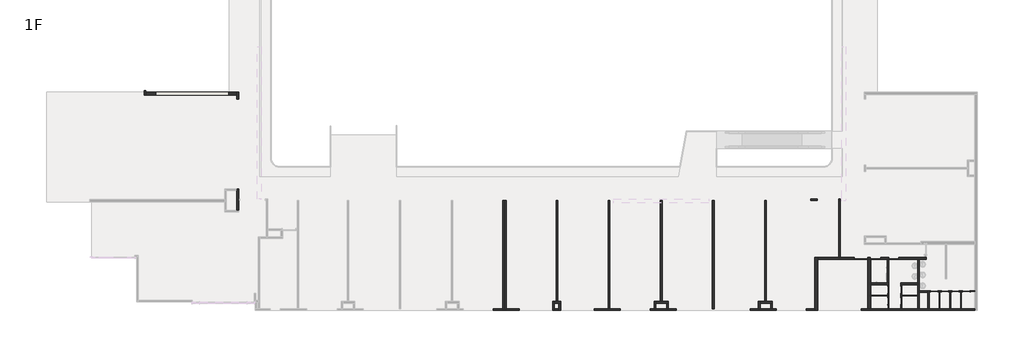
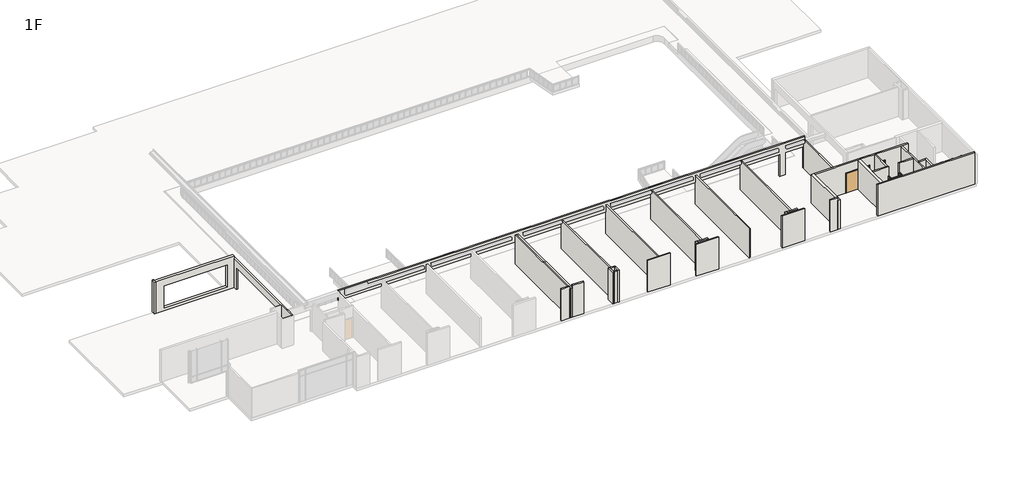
# One storey, part 2 of 5: 46 walls, 11 doors.
"""IFC4 building model written with IfcOpenShell, lengths in millimetres."""

from ifc_helpers import new_model, si_unit, frame, origin, place, context, project, spatial, polyline, outline, extrude, faceted_brep, transform, mapped, element, save
from components import m_single_flush_d_1200x2150_085a39eb, m_single_flush_d_600x2100_toilet_partition_8216d307, m_single_flush_d_900x2150_308bf3ab

model = new_model("IFC4")

# Units and contexts
model_context = context("Model", 3, world=origin())
ifc_project = project(units=[si_unit("LENGTHUNIT", "METRE", prefix="MILLI")], contexts=[model_context])

# Site, building, storey
site = spatial("IfcSite", under=ifc_project)
building = spatial("IfcBuilding", under=site)
storey = spatial("IfcBuildingStorey", under=building, Name="1F", Elevation=4650.0)

# Doors
placement = place(None, origin())
m_single_flush_d_1200x2150_shape = m_single_flush_d_1200x2150_085a39eb(model_context)
element("IfcDoor", 1, ObjectType="M_Single-Flush : D-1200x2150", at=placement, inside=storey, context=model_context, shape_type="MappedRepresentation", body=[
    mapped(m_single_flush_d_1200x2150_shape, transform((32662.4134101, -21228.6148653, 4650.0), x_axis=(1.0, 0.0, 0.0), y_axis=(0.0, 1.0, 0.0), z_axis=(0.0, 0.0, 1.0))),
])
m_single_flush_d_600x2100_toilet_partition_shape = m_single_flush_d_600x2100_toilet_partition_8216d307(model_context)
element("IfcDoor", 2, ObjectType="M_Single-Flush : D-600x2100-toilet-partition", at=placement, inside=storey, context=model_context, shape_type="MappedRepresentation", body=[
    mapped(m_single_flush_d_600x2100_toilet_partition_shape, transform((39137.4134101, -24152.6148653, 4650.0), x_axis=(-1.0, 0.0, 0.0), y_axis=(0.0, -1.0, 0.0), z_axis=(0.0, 0.0, 1.0))),
])
element("IfcDoor", 3, ObjectType="M_Single-Flush : D-600x2100-toilet-partition", at=placement, inside=storey, context=model_context, shape_type="MappedRepresentation", body=[
    mapped(m_single_flush_d_600x2100_toilet_partition_shape, transform((40087.4134101, -24152.6148653, 4650.0), x_axis=(-1.0, 0.0, 0.0), y_axis=(0.0, -1.0, 0.0), z_axis=(0.0, 0.0, 1.0))),
])
element("IfcDoor", 4, ObjectType="M_Single-Flush : D-600x2100-toilet-partition", at=placement, inside=storey, context=model_context, shape_type="MappedRepresentation", body=[
    mapped(m_single_flush_d_600x2100_toilet_partition_shape, transform((41037.4134101, -24152.6148653, 4650.0), x_axis=(-1.0, 0.0, 0.0), y_axis=(0.0, -1.0, 0.0), z_axis=(0.0, 0.0, 1.0))),
])
element("IfcDoor", 5, ObjectType="M_Single-Flush : D-600x2100-toilet-partition", at=placement, inside=storey, context=model_context, shape_type="MappedRepresentation", body=[
    mapped(m_single_flush_d_600x2100_toilet_partition_shape, transform((41987.4134101, -24152.6148653, 4650.0), x_axis=(-1.0, 0.0, 0.0), y_axis=(0.0, -1.0, 0.0), z_axis=(0.0, 0.0, 1.0))),
])
element("IfcDoor", 6, ObjectType="M_Single-Flush : D-600x2100-toilet-partition", at=placement, inside=storey, context=model_context, shape_type="MappedRepresentation", body=[
    mapped(m_single_flush_d_600x2100_toilet_partition_shape, transform((36217.4134101, -24027.6148653, 4650.0), x_axis=(0.0, -1.0, 0.0), y_axis=(1.0, 0.0, 0.0), z_axis=(0.0, 0.0, 1.0))),
])
element("IfcDoor", 7, ObjectType="M_Single-Flush : D-600x2100-toilet-partition", at=placement, inside=storey, context=model_context, shape_type="MappedRepresentation", body=[
    mapped(m_single_flush_d_600x2100_toilet_partition_shape, transform((36217.4134101, -25027.6148653, 4650.0), x_axis=(0.0, -1.0, 0.0), y_axis=(1.0, 0.0, 0.0), z_axis=(0.0, 0.0, 1.0))),
])
element("IfcDoor", 8, ObjectType="M_Single-Flush : D-600x2100-toilet-partition", at=placement, inside=storey, context=model_context, shape_type="MappedRepresentation", body=[
    mapped(m_single_flush_d_600x2100_toilet_partition_shape, transform((35082.4134101, -24027.6148653, 4650.0), x_axis=(0.0, 1.0, 0.0), y_axis=(-1.0, 0.0, 0.0), z_axis=(0.0, 0.0, 1.0))),
])
element("IfcDoor", 9, ObjectType="M_Single-Flush : D-600x2100-toilet-partition", at=placement, inside=storey, context=model_context, shape_type="MappedRepresentation", body=[
    mapped(m_single_flush_d_600x2100_toilet_partition_shape, transform((35082.4134101, -25027.6148653, 4650.0), x_axis=(0.0, 1.0, 0.0), y_axis=(-1.0, 0.0, 0.0), z_axis=(0.0, 0.0, 1.0))),
])
m_single_flush_d_900x2150_shape = m_single_flush_d_900x2150_308bf3ab(model_context)
element("IfcDoor", 10, ObjectType="M_Single-Flush : D-900x2150", at=placement, inside=storey, context=model_context, shape_type="MappedRepresentation", body=[
    mapped(m_single_flush_d_900x2150_shape, transform((35557.4134101, -21228.6148653, 4650.0), x_axis=(-1.0, 0.0, 0.0), y_axis=(0.0, -1.0, 0.0), z_axis=(0.0, 0.0, 1.0))),
])
element("IfcDoor", 11, ObjectType="M_Single-Flush : D-900x2150", at=placement, inside=storey, context=model_context, shape_type="MappedRepresentation", body=[
    mapped(m_single_flush_d_900x2150_shape, transform((33942.4134101, -21228.6148653, 4650.0), x_axis=(-1.0, 0.0, 0.0), y_axis=(0.0, -1.0, 0.0), z_axis=(0.0, 0.0, 1.0))),
])

# Walls
element("IfcWall", 12, ObjectType="Toilet-partition", at=placement, inside=storey, context=model_context, shape_type="Brep", body=[
    faceted_brep([(41337.4134101, -24177.6148653, 4650.0), (41487.4134101, -24177.6148653, 4650.0), (41537.4134101, -24177.6148653, 4650.0), (41687.4134101, -24177.6148653, 4650.0), (41687.4134101, -24177.6148653, 6750.0), (42287.4134101, -24177.6148653, 6750.0), (42287.4134101, -24177.6148653, 4650.0), (42717.4134101, -24177.6148653, 4650.0), (42717.4134101, -24177.6148653, 6800.0), (41537.4134101, -24177.6148653, 6800.0), (41487.4134101, -24177.6148653, 6800.0), (40587.4134101, -24177.6148653, 6800.0), (40537.4134101, -24177.6148653, 6800.0), (39637.4134101, -24177.6148653, 6800.0), (39587.4134101, -24177.6148653, 6800.0), (38699.4134101, -24177.6148653, 6800.0), (38699.4134101, -24177.6148653, 4650.0), (38837.4134101, -24177.6148653, 4650.0), (38837.4134101, -24177.6148653, 6750.0), (39437.4134101, -24177.6148653, 6750.0), (39437.4134101, -24177.6148653, 4650.0), (39587.4134101, -24177.6148653, 4650.0), (39637.4134101, -24177.6148653, 4650.0), (39787.4134101, -24177.6148653, 4650.0), (39787.4134101, -24177.6148653, 6750.0), (40387.4134101, -24177.6148653, 6750.0), (40387.4134101, -24177.6148653, 4650.0), (40537.4134101, -24177.6148653, 4650.0), (40587.4134101, -24177.6148653, 4650.0), (40737.4134101, -24177.6148653, 4650.0), (40737.4134101, -24177.6148653, 6750.0), (41337.4134101, -24177.6148653, 6750.0), (41687.4134101, -24127.6148653, 6750.0), (41687.4134101, -24127.6148653, 4650.0), (41337.4134101, -24127.6148653, 4650.0), (41337.4134101, -24127.6148653, 6750.0), (40737.4134101, -24127.6148653, 6750.0), (40737.4134101, -24127.6148653, 4650.0), (40387.4134101, -24127.6148653, 4650.0), (40387.4134101, -24127.6148653, 6750.0), (39787.4134101, -24127.6148653, 6750.0), (39787.4134101, -24127.6148653, 4650.0), (39437.4134101, -24127.6148653, 4650.0), (39437.4134101, -24127.6148653, 6750.0), (38837.4134101, -24127.6148653, 6750.0), (38837.4134101, -24127.6148653, 4650.0), (38699.4134101, -24127.6148653, 4650.0), (38699.4134101, -24127.6148653, 6800.0), (42717.4134101, -24127.6148653, 6800.0), (42717.4134101, -24127.6148653, 4650.0), (42287.4134101, -24127.6148653, 4650.0), (42287.4134101, -24127.6148653, 6750.0)], [[[0, 1, 2, 3, 4, 5, 6, 7, 8, 9, 10, 11, 12, 13, 14, 15, 16, 17, 18, 19, 20, 21, 22, 23, 24, 25, 26, 27, 28, 29, 30, 31]], [[32, 33, 34, 35, 36, 37, 38, 39, 40, 41, 42, 43, 44, 45, 46, 47, 48, 49, 50, 51]], [[46, 45, 17, 16]], [[42, 41, 23, 22, 21, 20]], [[38, 37, 29, 28, 27, 26]], [[34, 33, 3, 2, 1, 0]], [[50, 49, 7, 6]], [[15, 14, 13, 12, 11, 10, 9, 8, 48, 47]], [[8, 7, 49, 48]], [[16, 15, 47, 46]], [[18, 17, 45, 44]], [[19, 18, 44, 43]], [[20, 19, 43, 42]], [[24, 23, 41, 40]], [[25, 24, 40, 39]], [[26, 25, 39, 38]], [[30, 29, 37, 36]], [[31, 30, 36, 35]], [[0, 31, 35, 34]], [[4, 3, 33, 32]], [[5, 4, 32, 51]], [[6, 5, 51, 50]]]),
])
element("IfcWall", 13, ObjectType="Toilet-partition", at=placement, inside=storey, context=model_context, shape_type="SweptSolid", body=[
    extrude(outline(polyline([(39587.4134101, -25692.6148653), (39587.4134101, -24177.6148653), (39637.4134101, -24177.6148653), (39637.4134101, -25692.6148653), (39587.4134101, -25692.6148653)])), frame((0.0, 0.0, 4650.0), z_axis=(0.0, 0.0, 1.0), x_axis=(1.0, 0.0, 0.0)), (0.0, 0.0, 1.0), 2150.0),
])
element("IfcWall", 14, ObjectType="Toilet-partition", at=placement, inside=storey, context=model_context, shape_type="SweptSolid", body=[
    extrude(outline(polyline([(40537.4134101, -25692.6148653), (40537.4134101, -24177.6148653), (40587.4134101, -24177.6148653), (40587.4134101, -25692.6148653), (40537.4134101, -25692.6148653)])), frame((0.0, 0.0, 4650.0), z_axis=(0.0, 0.0, 1.0), x_axis=(1.0, 0.0, 0.0)), (0.0, 0.0, 1.0), 2150.0),
])
element("IfcWall", 15, ObjectType="Toilet-partition", at=placement, inside=storey, context=model_context, shape_type="SweptSolid", body=[
    extrude(outline(polyline([(41487.4134101, -25692.6148653), (41487.4134101, -24177.6148653), (41537.4134101, -24177.6148653), (41537.4134101, -25692.6148653), (41487.4134101, -25692.6148653)])), frame((0.0, 0.0, 4650.0), z_axis=(0.0, 0.0, 1.0), x_axis=(1.0, 0.0, 0.0)), (0.0, 0.0, 1.0), 2150.0),
])
element("IfcWall", 16, ObjectType="Toilet-partition", at=placement, inside=storey, context=model_context, shape_type="Brep", body=[
    faceted_brep([(36192.4134101, -25327.6148653, 6750.0), (36192.4134101, -25327.6148653, 4650.0), (36192.4134101, -25692.6148653, 4650.0), (36192.4134101, -25692.6148653, 6800.0), (36192.4134101, -23564.6148653, 6800.0), (36192.4134101, -23564.6148653, 4650.0), (36192.4134101, -23727.6148653, 4650.0), (36192.4134101, -23727.6148653, 6750.0), (36192.4134101, -24327.6148653, 6750.0), (36192.4134101, -24327.6148653, 4650.0), (36192.4134101, -24727.6148653, 4650.0), (36192.4134101, -24727.6148653, 6750.0), (36242.4134101, -25692.6148653, 4650.0), (36242.4134101, -25327.6148653, 4650.0), (36242.4134101, -25327.6148653, 6750.0), (36242.4134101, -24727.6148653, 6750.0), (36242.4134101, -24727.6148653, 4650.0), (36242.4134101, -24552.6148653, 4650.0), (36242.4134101, -24502.6148653, 4650.0), (36242.4134101, -24327.6148653, 4650.0), (36242.4134101, -24327.6148653, 6750.0), (36242.4134101, -23727.6148653, 6750.0), (36242.4134101, -23727.6148653, 4650.0), (36242.4134101, -23564.6148653, 4650.0), (36242.4134101, -23564.6148653, 6800.0), (36242.4134101, -24502.6148653, 6800.0), (36242.4134101, -24552.6148653, 6800.0), (36242.4134101, -25692.6148653, 6800.0)], [[[0, 1, 2, 3, 4, 5, 6, 7, 8, 9, 10, 11]], [[12, 13, 14, 15, 16, 17, 18, 19, 20, 21, 22, 23, 24, 25, 26, 27]], [[2, 1, 13, 12]], [[6, 5, 23, 22]], [[10, 9, 19, 18, 17, 16]], [[4, 3, 27, 26, 25, 24]], [[5, 4, 24, 23]], [[3, 2, 12, 27]], [[20, 19, 9, 8]], [[21, 20, 8, 7]], [[22, 21, 7, 6]], [[14, 13, 1, 0]], [[15, 14, 0, 11]], [[16, 15, 11, 10]]]),
])
element("IfcWall", 17, ObjectType="Toilet-partition", at=placement, inside=storey, context=model_context, shape_type="SweptSolid", body=[
    extrude(outline(polyline([(37692.4134101, -24552.6148653), (36242.4134101, -24552.6148653), (36242.4134101, -24502.6148653), (37692.4134101, -24502.6148653), (37692.4134101, -24552.6148653)])), frame((0.0, 0.0, 4650.0), z_axis=(0.0, 0.0, 1.0), x_axis=(1.0, 0.0, 0.0)), (0.0, 0.0, 1.0), 2150.0),
])
element("IfcWall", 18, ObjectType="Toilet-partition", at=placement, inside=storey, context=model_context, shape_type="Brep", body=[
    faceted_brep([(35057.4134101, -24327.6148653, 4650.0), (35057.4134101, -24502.6148653, 4650.0), (35057.4134101, -24552.6148653, 4650.0), (35057.4134101, -24727.6148653, 4650.0), (35057.4134101, -24727.6148653, 6750.0), (35057.4134101, -25327.6148653, 6750.0), (35057.4134101, -25327.6148653, 4650.0), (35057.4134101, -25692.6148653, 4650.0), (35057.4134101, -25692.6148653, 6800.0), (35057.4134101, -24552.6148653, 6800.0), (35057.4134101, -24502.6148653, 6800.0), (35057.4134101, -23564.6148653, 6800.0), (35057.4134101, -23564.6148653, 4650.0), (35057.4134101, -23727.6148653, 4650.0), (35057.4134101, -23727.6148653, 6750.0), (35057.4134101, -24327.6148653, 6750.0), (35107.4134101, -24727.6148653, 6750.0), (35107.4134101, -24727.6148653, 4650.0), (35107.4134101, -24327.6148653, 4650.0), (35107.4134101, -24327.6148653, 6750.0), (35107.4134101, -23727.6148653, 6750.0), (35107.4134101, -23727.6148653, 4650.0), (35107.4134101, -23564.6148653, 4650.0), (35107.4134101, -23564.6148653, 6800.0), (35107.4134101, -25692.6148653, 6800.0), (35107.4134101, -25692.6148653, 4650.0), (35107.4134101, -25327.6148653, 4650.0), (35107.4134101, -25327.6148653, 6750.0)], [[[0, 1, 2, 3, 4, 5, 6, 7, 8, 9, 10, 11, 12, 13, 14, 15]], [[16, 17, 18, 19, 20, 21, 22, 23, 24, 25, 26, 27]], [[22, 21, 13, 12]], [[18, 17, 3, 2, 1, 0]], [[26, 25, 7, 6]], [[11, 10, 9, 8, 24, 23]], [[12, 11, 23, 22]], [[8, 7, 25, 24]], [[14, 13, 21, 20]], [[15, 14, 20, 19]], [[0, 15, 19, 18]], [[4, 3, 17, 16]], [[5, 4, 16, 27]], [[6, 5, 27, 26]]]),
])
element("IfcWall", 19, ObjectType="Toilet-partition", at=placement, inside=storey, context=model_context, shape_type="SweptSolid", body=[
    extrude(outline(polyline([(33504.4134101, -24502.6148653), (35057.4134101, -24502.6148653), (35057.4134101, -24552.6148653), (33504.4134101, -24552.6148653), (33504.4134101, -24502.6148653)])), frame((0.0, 0.0, 4650.0), z_axis=(0.0, 0.0, 1.0), x_axis=(1.0, 0.0, 0.0)), (0.0, 0.0, 1.0), 2150.0),
])
element("IfcWall", 20, ObjectType="wall-115", at=placement, inside=storey, context=model_context, shape_type="SweptSolid", body=[
    extrude(outline(polyline([(24241.9134101, -16102.6148653), (24241.9134101, -25062.6148653), (24099.9134101, -25062.6148653), (24099.9134101, -16102.6148653), (24241.9134101, -16102.6148653)])), frame((0.0, 0.0, 4650.0), z_axis=(0.0, 0.0, 1.0), x_axis=(1.0, 0.0, 0.0)), (0.0, 0.0, 1.0), 3175.0),
])
element("IfcWall", 21, ObjectType="wall-115", at=placement, inside=storey, context=model_context, shape_type="SweptSolid", body=[
    extrude(outline(polyline([(19626.9134101, -16102.6148653), (19626.9134101, -25707.6148653), (19484.9134101, -25707.6148653), (19484.9134101, -16102.6148653), (19626.9134101, -16102.6148653)])), frame((0.0, 0.0, 4650.0), z_axis=(0.0, 0.0, 1.0), x_axis=(1.0, 0.0, 0.0)), (0.0, 0.0, 1.0), 3175.0),
])
element("IfcWall", 22, ObjectType="wall-115", at=placement, inside=storey, context=model_context, shape_type="Brep", body=[
    faceted_brep([(14469.4134101, -25692.6148653, 4650.0), (14469.4134101, -25204.6148653, 4650.0), (14469.4134101, -25062.6148653, 4650.0), (14469.4134101, -25062.6148653, 7825.0), (14469.4134101, -25204.6148653, 7825.0), (14469.4134101, -25692.6148653, 7825.0), (14327.4134101, -25692.6148653, 4650.0), (14327.4134101, -25692.6148653, 7825.0), (14327.4134101, -25062.6148653, 7825.0), (14327.4134101, -25062.6148653, 4650.0)], [[[0, 1, 2, 3, 4, 5]], [[6, 7, 8, 9]], [[2, 1, 0, 6, 9]], [[3, 2, 9, 8]], [[0, 5, 7, 6]], [[5, 4, 3, 8, 7]]]),
])
element("IfcWall", 23, ObjectType="wall-115", at=placement, inside=storey, context=model_context, shape_type="Brep", body=[
    faceted_brep([(14469.4134101, -25204.6148653, 4650.0), (15415.4134101, -25204.6148653, 4650.0), (15557.4134101, -25204.6148653, 4650.0), (15557.4134101, -25204.6148653, 7825.0), (15415.4134101, -25204.6148653, 7825.0), (14469.4134101, -25204.6148653, 7825.0), (14469.4134101, -25062.6148653, 4650.0), (14469.4134101, -25062.6148653, 7825.0), (14869.9134101, -25062.6148653, 7825.0), (15011.9134101, -25062.6148653, 7825.0), (15557.4134101, -25062.6148653, 7825.0), (15557.4134101, -25062.6148653, 4650.0), (15011.9134101, -25062.6148653, 4650.0), (14869.9134101, -25062.6148653, 4650.0)], [[[0, 1, 2, 3, 4, 5]], [[6, 7, 8, 9, 10, 11, 12, 13]], [[2, 1, 0, 6, 13, 12, 11]], [[3, 2, 11, 10]], [[0, 5, 7, 6]], [[5, 4, 3, 10, 9, 8, 7]]]),
])
element("IfcWall", 24, ObjectType="wall-115", at=placement, inside=storey, context=model_context, shape_type="SweptSolid", body=[
    extrude(outline(polyline([(15415.4134101, -25692.6148653), (15415.4134101, -25204.6148653), (15557.4134101, -25204.6148653), (15557.4134101, -25692.6148653), (15415.4134101, -25692.6148653)])), frame((0.0, 0.0, 4650.0), z_axis=(0.0, 0.0, 1.0), x_axis=(1.0, 0.0, 0.0)), (0.0, 0.0, 1.0), 3175.0),
])
element("IfcWall", 25, ObjectType="wall-115", at=placement, inside=storey, context=model_context, shape_type="SweptSolid", body=[
    extrude(outline(polyline([(15011.9134101, -16102.6148653), (15011.9134101, -25062.6148653), (14869.9134101, -25062.6148653), (14869.9134101, -16102.6148653), (15011.9134101, -16102.6148653)])), frame((0.0, 0.0, 4650.0), z_axis=(0.0, 0.0, 1.0), x_axis=(1.0, 0.0, 0.0)), (0.0, 0.0, 1.0), 3175.0),
])
element("IfcWall", 26, ObjectType="wall-115", at=placement, inside=storey, context=model_context, shape_type="SweptSolid", body=[
    extrude(outline(polyline([(10396.9134101, -16102.6148653), (10396.9134101, -25692.6148653), (10254.9134101, -25692.6148653), (10254.9134101, -16102.6148653), (10396.9134101, -16102.6148653)])), frame((0.0, 0.0, 4650.0), z_axis=(0.0, 0.0, 1.0), x_axis=(1.0, 0.0, 0.0)), (0.0, 0.0, 1.0), 3175.0),
])
element("IfcWall", 27, ObjectType="wall-115", at=placement, inside=storey, context=model_context, shape_type="SweptSolid", body=[
    extrude(outline(polyline([(5781.9134101, -16102.6148653), (5781.9134101, -25062.6148653), (5639.9134101, -25062.6148653), (5639.9134101, -16102.6148653), (5781.9134101, -16102.6148653)])), frame((0.0, 0.0, 4650.0), z_axis=(0.0, 0.0, 1.0), x_axis=(1.0, 0.0, 0.0)), (0.0, 0.0, 1.0), 3175.0),
])
element("IfcWall", 28, ObjectType="wall-115", at=placement, inside=storey, context=model_context, shape_type="Brep", body=[
    faceted_brep([(1034.4134101, -25834.6148653, 4650.0), (1034.4134101, -16102.6148653, 4650.0), (1034.4134101, -16102.6148653, 7825.0), (1034.4134101, -25834.6148653, 7825.0), (892.4134101, -25834.6148653, 4650.0), (892.4134101, -25834.6148653, 7825.0), (892.4134101, -16102.6148653, 7825.0), (892.4134101, -16102.6148653, 4650.0), (892.4134101, -25692.6148653, 4650.0)], [[[0, 1, 2, 3]], [[4, 5, 6, 7, 8]], [[1, 0, 4, 8, 7]], [[0, 3, 5, 4]], [[2, 1, 7, 6]], [[3, 2, 6, 5]]]),
])
element("IfcWall", 29, ObjectType="wall-115", at=placement, inside=storey, context=model_context, shape_type="Brep", body=[
    faceted_brep([(38434.4134101, -21299.6148653, 4650.0), (38434.4134101, -21299.6148653, 7825.0), (37834.4134101, -21299.6148653, 7825.0), (37692.4134101, -21299.6148653, 7825.0), (35119.4134101, -21299.6148653, 7825.0), (34977.4134101, -21299.6148653, 7825.0), (33504.4134101, -21299.6148653, 7825.0), (33247.4134101, -21299.6148653, 7825.0), (28799.4134101, -21299.6148653, 7825.0), (28799.4134101, -21299.6148653, 4650.0), (32062.4134101, -21299.6148653, 4650.0), (32062.4134101, -21299.6148653, 6800.0), (33262.4134101, -21299.6148653, 6800.0), (33262.4134101, -21299.6148653, 4650.0), (33492.4134101, -21299.6148653, 4650.0), (33492.4134101, -21299.6148653, 6800.0), (34392.4134101, -21299.6148653, 6800.0), (34392.4134101, -21299.6148653, 4650.0), (34977.4134101, -21299.6148653, 4650.0), (35107.4134101, -21299.6148653, 4650.0), (35107.4134101, -21299.6148653, 6800.0), (36007.4134101, -21299.6148653, 6800.0), (36007.4134101, -21299.6148653, 4650.0), (37692.4134101, -21299.6148653, 4650.0), (37834.4134101, -21299.6148653, 4650.0), (28799.4134101, -21157.6148653, 7825.0), (30657.4134101, -21157.6148653, 7825.0), (30799.4134101, -21157.6148653, 7825.0), (38292.4134101, -21157.6148653, 7825.0), (38434.4134101, -21157.6148653, 7825.0), (38434.4134101, -21157.6148653, 4650.0), (38292.4134101, -21157.6148653, 4650.0), (36007.4134101, -21157.6148653, 4650.0), (36007.4134101, -21157.6148653, 6800.0), (35107.4134101, -21157.6148653, 6800.0), (35107.4134101, -21157.6148653, 4650.0), (34392.4134101, -21157.6148653, 4650.0), (34392.4134101, -21157.6148653, 6800.0), (33492.4134101, -21157.6148653, 6800.0), (33492.4134101, -21157.6148653, 4650.0), (33262.4134101, -21157.6148653, 4650.0), (33262.4134101, -21157.6148653, 6800.0), (32062.4134101, -21157.6148653, 6800.0), (32062.4134101, -21157.6148653, 4650.0), (30799.4134101, -21157.6148653, 4650.0), (30657.4134101, -21157.6148653, 4650.0), (28799.4134101, -21157.6148653, 4650.0)], [[[0, 1, 2, 3, 4, 5, 6, 7, 8, 9, 10, 11, 12, 13, 14, 15, 16, 17, 18, 19, 20, 21, 22, 23, 24]], [[25, 26, 27, 28, 29, 30, 31, 32, 33, 34, 35, 36, 37, 38, 39, 40, 41, 42, 43, 44, 45, 46]], [[30, 0, 24, 23, 22, 32, 31]], [[9, 46, 45, 44, 43, 10]], [[35, 19, 18, 17, 36]], [[39, 14, 13, 40]], [[1, 0, 30, 29]], [[9, 8, 25, 46]], [[29, 28, 27, 26, 25, 8, 7, 6, 5, 4, 3, 2, 1]], [[20, 19, 35, 34]], [[21, 20, 34, 33]], [[22, 21, 33, 32]], [[15, 14, 39, 38]], [[16, 15, 38, 37]], [[17, 16, 37, 36]], [[12, 41, 40, 13]], [[41, 12, 11, 42]], [[42, 11, 10, 43]]]),
])
element("IfcWall", 30, ObjectType="wall-115", at=placement, inside=storey, context=model_context, shape_type="Brep", body=[
    faceted_brep([(33504.4134101, -23564.6148653, 4650.0), (35057.4134101, -23564.6148653, 4650.0), (35107.4134101, -23564.6148653, 4650.0), (35119.4134101, -23564.6148653, 4650.0), (35119.4134101, -23564.6148653, 7825.0), (33504.4134101, -23564.6148653, 7825.0), (33504.4134101, -23422.6148653, 4650.0), (33504.4134101, -23422.6148653, 7825.0), (34977.4134101, -23422.6148653, 7825.0), (35119.4134101, -23422.6148653, 7825.0), (35119.4134101, -23422.6148653, 4650.0), (34977.4134101, -23422.6148653, 4650.0)], [[[0, 1, 2, 3, 4, 5]], [[6, 7, 8, 9, 10, 11]], [[3, 2, 1, 0, 6, 11, 10]], [[0, 5, 7, 6]], [[4, 3, 10, 9]], [[5, 4, 9, 8, 7]]]),
])
element("IfcWall", 31, ObjectType="wall-115", at=placement, inside=storey, context=model_context, shape_type="Brep", body=[
    faceted_brep([(35119.4134101, -23422.6148653, 4650.0), (35119.4134101, -21299.6148653, 4650.0), (35119.4134101, -21299.6148653, 7825.0), (35119.4134101, -23422.6148653, 7825.0), (34977.4134101, -23422.6148653, 4650.0), (34977.4134101, -23422.6148653, 7825.0), (34977.4134101, -21299.6148653, 7825.0), (34977.4134101, -21299.6148653, 4650.0), (35107.4134101, -21299.6148653, 4650.0)], [[[0, 1, 2, 3]], [[4, 5, 6, 7]], [[1, 0, 4, 7, 8]], [[2, 1, 8, 7, 6]], [[0, 3, 5, 4]], [[3, 2, 6, 5]]]),
])
element("IfcWall", 32, ObjectType="wall-115", at=placement, inside=storey, context=model_context, shape_type="Brep", body=[
    faceted_brep([(36192.4134101, -23564.6148653, 4650.0), (36242.4134101, -23564.6148653, 4650.0), (37692.4134101, -23564.6148653, 4650.0), (37692.4134101, -23564.6148653, 7825.0), (36192.4134101, -23564.6148653, 7825.0), (36192.4134101, -23564.6148653, 6800.0), (36192.4134101, -23422.6148653, 4650.0), (36192.4134101, -23422.6148653, 7825.0), (37692.4134101, -23422.6148653, 7825.0), (37692.4134101, -23422.6148653, 4650.0)], [[[0, 1, 2, 3, 4, 5]], [[6, 7, 8, 9]], [[2, 1, 0, 6, 9]], [[3, 2, 9, 8]], [[0, 5, 4, 7, 6]], [[4, 3, 8, 7]]]),
])
element("IfcWall", 33, ObjectType="wall-115", at=placement, inside=storey, context=model_context, shape_type="Brep", body=[
    faceted_brep([(37834.4134101, -25692.6148653, 4650.0), (37834.4134101, -24257.6148653, 4650.0), (37834.4134101, -24115.6148653, 4650.0), (37834.4134101, -21299.6148653, 4650.0), (37834.4134101, -21299.6148653, 7825.0), (37834.4134101, -24115.6148653, 7825.0), (37834.4134101, -24257.6148653, 7825.0), (37834.4134101, -25692.6148653, 7825.0), (37692.4134101, -25692.6148653, 4650.0), (37692.4134101, -25692.6148653, 7825.0), (37692.4134101, -23564.6148653, 7825.0), (37692.4134101, -23422.6148653, 7825.0), (37692.4134101, -21299.6148653, 7825.0), (37692.4134101, -21299.6148653, 4650.0), (37692.4134101, -23422.6148653, 4650.0), (37692.4134101, -23564.6148653, 4650.0), (37692.4134101, -24502.6148653, 4650.0), (37692.4134101, -24552.6148653, 4650.0)], [[[0, 1, 2, 3, 4, 5, 6, 7]], [[8, 9, 10, 11, 12, 13, 14, 15, 16, 17]], [[3, 2, 1, 0, 8, 17, 16, 15, 14, 13]], [[4, 3, 13, 12]], [[0, 7, 9, 8]], [[7, 6, 5, 4, 12, 11, 10, 9]]]),
])
element("IfcWall", 34, ObjectType="wall-115", at=placement, inside=storey, context=model_context, shape_type="Brep", body=[
    faceted_brep([(38699.4134101, -25692.6148653, 4650.0), (38699.4134101, -24177.6148653, 4650.0), (38699.4134101, -24127.6148653, 4650.0), (38699.4134101, -24115.6148653, 4650.0), (38699.4134101, -24115.6148653, 7825.0), (38699.4134101, -25692.6148653, 7825.0), (38557.4134101, -25692.6148653, 4650.0), (38557.4134101, -25692.6148653, 7825.0), (38557.4134101, -24257.6148653, 7825.0), (38557.4134101, -24115.6148653, 7825.0), (38557.4134101, -24115.6148653, 4650.0), (38557.4134101, -24257.6148653, 4650.0)], [[[0, 1, 2, 3, 4, 5]], [[6, 7, 8, 9, 10, 11]], [[3, 2, 1, 0, 6, 11, 10]], [[4, 3, 10, 9]], [[0, 5, 7, 6]], [[5, 4, 9, 8, 7]]]),
])
element("IfcWall", 35, ObjectType="wall-115", at=placement, inside=storey, context=model_context, shape_type="SweptSolid", body=[
    extrude(outline(polyline([(37834.4134101, -24115.6148653), (38557.4134101, -24115.6148653), (38557.4134101, -24257.6148653), (37834.4134101, -24257.6148653), (37834.4134101, -24115.6148653)])), frame((0.0, 0.0, 4650.0), z_axis=(0.0, 0.0, 1.0), x_axis=(1.0, 0.0, 0.0)), (0.0, 0.0, 1.0), 3175.0),
])
element("IfcWall", 36, ObjectType="wall-115", at=placement, inside=storey, context=model_context, shape_type="Brep", body=[
    faceted_brep([(-22667.5865898, -6460.6148653, 4650.0), (-22667.5865898, -6717.6148653, 4650.0), (-22667.5865898, -7072.6310718, 4650.0), (-22667.5865898, -7072.6310718, 7050.0), (-22667.5865898, -15072.6310718, 7050.0), (-22667.5865898, -15072.6310718, 4650.0), (-22667.5865898, -15199.6310718, 4650.0), (-22667.5865898, -16972.6148653, 4650.0), (-22667.5865898, -16972.6148653, 7825.0), (-22667.5865898, -15199.6310718, 7825.0), (-22667.5865898, -15057.6310718, 7825.0), (-22667.5865898, -6460.6148653, 7825.0), (-22525.5865898, -7072.6310718, 7050.0), (-22525.5865898, -7072.6310718, 4650.0), (-22525.5865898, -6460.6148653, 4650.0), (-22525.5865898, -6460.6148653, 7825.0), (-22525.5865898, -15960.6148653, 7825.0), (-22525.5865898, -16102.6148653, 7825.0), (-22525.5865898, -16972.6148653, 7825.0), (-22525.5865898, -16972.6148653, 4650.0), (-22525.5865898, -16102.6148653, 4650.0), (-22525.5865898, -15960.6148653, 4650.0), (-22525.5865898, -15072.6310718, 4650.0), (-22525.5865898, -15072.6310718, 7050.0)], [[[0, 1, 2, 3, 4, 5, 6, 7, 8, 9, 10, 11]], [[12, 13, 14, 15, 16, 17, 18, 19, 20, 21, 22, 23]], [[14, 13, 2, 1, 0]], [[22, 21, 20, 19, 7, 6, 5]], [[8, 7, 19, 18]], [[0, 11, 15, 14]], [[11, 10, 9, 8, 18, 17, 16, 15]], [[4, 3, 12, 23]], [[5, 4, 23, 22]], [[3, 2, 13, 12]]]),
])
element("IfcWall", 37, ObjectType="wall-115", at=placement, inside=storey, context=model_context, shape_type="Brep", body=[
    faceted_brep([(23699.4134101, -25692.6148653, 4650.0), (23699.4134101, -25204.6148653, 4650.0), (23699.4134101, -25062.6148653, 4650.0), (23699.4134101, -25062.6148653, 7825.0), (23699.4134101, -25204.6148653, 7825.0), (23699.4134101, -25692.6148653, 7825.0), (23557.4134101, -25692.6148653, 4650.0), (23557.4134101, -25692.6148653, 7825.0), (23557.4134101, -25062.6148653, 7825.0), (23557.4134101, -25062.6148653, 4650.0)], [[[0, 1, 2, 3, 4, 5]], [[6, 7, 8, 9]], [[2, 1, 0, 6, 9]], [[3, 2, 9, 8]], [[0, 5, 7, 6]], [[5, 4, 3, 8, 7]]]),
])
element("IfcWall", 38, ObjectType="wall-115", at=placement, inside=storey, context=model_context, shape_type="Brep", body=[
    faceted_brep([(23699.4134101, -25204.6148653, 4650.0), (24645.4134101, -25204.6148653, 4650.0), (24787.4134101, -25204.6148653, 4650.0), (24787.4134101, -25204.6148653, 7825.0), (24645.4134101, -25204.6148653, 7825.0), (23699.4134101, -25204.6148653, 7825.0), (23699.4134101, -25062.6148653, 4650.0), (23699.4134101, -25062.6148653, 7825.0), (24099.9134101, -25062.6148653, 7825.0), (24241.9134101, -25062.6148653, 7825.0), (24787.4134101, -25062.6148653, 7825.0), (24787.4134101, -25062.6148653, 4650.0), (24241.9134101, -25062.6148653, 4650.0), (24099.9134101, -25062.6148653, 4650.0)], [[[0, 1, 2, 3, 4, 5]], [[6, 7, 8, 9, 10, 11, 12, 13]], [[2, 1, 0, 6, 13, 12, 11]], [[3, 2, 11, 10]], [[0, 5, 7, 6]], [[5, 4, 3, 10, 9, 8, 7]]]),
])
element("IfcWall", 39, ObjectType="wall-115", at=placement, inside=storey, context=model_context, shape_type="SweptSolid", body=[
    extrude(outline(polyline([(24645.4134101, -25692.6148653), (24645.4134101, -25204.6148653), (24787.4134101, -25204.6148653), (24787.4134101, -25692.6148653), (24645.4134101, -25692.6148653)])), frame((0.0, 0.0, 4650.0), z_axis=(0.0, 0.0, 1.0), x_axis=(1.0, 0.0, 0.0)), (0.0, 0.0, 1.0), 3175.0),
])
element("IfcWall", 40, ObjectType="wall-115", at=placement, inside=storey, context=model_context, shape_type="Brep", body=[
    faceted_brep([(1224.4134101, -25834.6148653, 4650.0), (1224.4134101, -25692.6148653, 4650.0), (1224.4134101, -16102.6148653, 4650.0), (1224.4134101, -16102.6148653, 7825.0), (1224.4134101, -25834.6148653, 7825.0), (1082.4134101, -25834.6148653, 4650.0), (1082.4134101, -25834.6148653, 7825.0), (1082.4134101, -16102.6148653, 7825.0), (1082.4134101, -16102.6148653, 4650.0)], [[[0, 1, 2, 3, 4]], [[5, 6, 7, 8]], [[2, 1, 0, 5, 8]], [[0, 4, 6, 5]], [[3, 2, 8, 7]], [[4, 3, 7, 6]]]),
])
element("IfcWall", 41, ObjectType="wall-115", at=placement, inside=storey, context=model_context, shape_type="Brep", body=[
    faceted_brep([(30799.4134101, -21157.6148653, 4650.0), (30799.4134101, -16102.6148653, 4650.0), (30799.4134101, -16102.6148653, 7825.0), (30799.4134101, -21157.6148653, 7825.0), (30657.4134101, -21157.6148653, 4650.0), (30657.4134101, -21157.6148653, 7825.0), (30657.4134101, -16102.6148653, 7825.0), (30657.4134101, -16102.6148653, 4650.0), (30672.4134101, -16102.6148653, 4650.0)], [[[0, 1, 2, 3]], [[4, 5, 6, 7]], [[1, 0, 4, 7, 8]], [[2, 1, 8, 7, 6]], [[0, 3, 5, 4]], [[3, 2, 6, 5]]]),
])
element("IfcWall", 42, ObjectType="wall-115", at=placement, inside=storey, context=model_context, shape_type="Brep", body=[
    faceted_brep([(28187.4134101, -16102.6148653, 4650.0), (28787.4134101, -16102.6148653, 4650.0), (28787.4134101, -16102.6148653, 7050.0), (30672.4134101, -16102.6148653, 7050.0), (30672.4134101, -16102.6148653, 4650.0), (30799.4134101, -16102.6148653, 4650.0), (30799.4134101, -16102.6148653, 7825.0), (30799.4134101, -16102.6148653, 8100.0), (-17334.5865899, -16102.6148653, 8100.0), (-17334.5865899, -16102.6148653, 7825.0), (-17334.5865899, -16102.6148653, 7050.0), (28187.4134101, -16102.6148653, 7050.0), (28787.4134101, -15960.6148653, 7050.0), (28787.4134101, -15960.6148653, 4650.0), (28187.4134101, -15960.6148653, 4650.0), (28187.4134101, -15960.6148653, 7050.0), (-17334.5865899, -15960.6148653, 7050.0), (-17334.5865899, -15960.6148653, 8100.0), (30799.4134101, -15960.6148653, 8100.0), (30799.4134101, -15960.6148653, 4650.0), (30672.4134101, -15960.6148653, 4650.0), (30672.4134101, -15960.6148653, 7050.0)], [[[0, 1, 2, 3, 4, 5, 6, 7, 8, 9, 10, 11]], [[12, 13, 14, 15, 16, 17, 18, 19, 20, 21]], [[14, 13, 1, 0]], [[20, 19, 5, 4]], [[8, 7, 18, 17]], [[7, 6, 5, 19, 18]], [[8, 17, 16, 10, 9]], [[10, 16, 15, 11]], [[11, 15, 14, 0]], [[3, 2, 12, 21]], [[4, 3, 21, 20]], [[2, 1, 13, 12]]]),
])
element("IfcWall", 43, ObjectType="wall-115", at=placement, inside=storey, context=model_context, shape_type="Brep", body=[
    faceted_brep([(13967.4134101, -25834.6148653, 4650.0), (16287.4134101, -25834.6148653, 4650.0), (16287.4134101, -25834.6148653, 8100.0), (13967.4134101, -25834.6148653, 8100.0), (13967.4134101, -25692.6148653, 4650.0), (13967.4134101, -25692.6148653, 8100.0), (16287.4134101, -25692.6148653, 8100.0), (16287.4134101, -25692.6148653, 4650.0), (15557.4134101, -25692.6148653, 4650.0), (15415.4134101, -25692.6148653, 4650.0), (14469.4134101, -25692.6148653, 4650.0), (14327.4134101, -25692.6148653, 4650.0)], [[[0, 1, 2, 3]], [[4, 5, 6, 7, 8, 9, 10, 11]], [[1, 0, 4, 11, 10, 9, 8, 7]], [[2, 1, 7, 6]], [[3, 2, 6, 5]], [[0, 3, 5, 4]]]),
])
element("IfcWall", 44, ObjectType="wall-115", at=placement, inside=storey, context=model_context, shape_type="Brep", body=[
    faceted_brep([(22827.4134101, -25834.6148653, 4650.0), (25147.4134101, -25834.6148653, 4650.0), (25147.4134101, -25834.6148653, 8100.0), (22827.4134101, -25834.6148653, 8100.0), (22827.4134101, -25692.6148653, 4650.0), (22827.4134101, -25692.6148653, 8100.0), (25147.4134101, -25692.6148653, 8100.0), (25147.4134101, -25692.6148653, 4650.0), (24787.4134101, -25692.6148653, 4650.0), (24645.4134101, -25692.6148653, 4650.0), (23699.4134101, -25692.6148653, 4650.0), (23557.4134101, -25692.6148653, 4650.0)], [[[0, 1, 2, 3]], [[4, 5, 6, 7, 8, 9, 10, 11]], [[1, 0, 4, 11, 10, 9, 8, 7]], [[2, 1, 7, 6]], [[3, 2, 6, 5]], [[0, 3, 5, 4]]]),
])
element("IfcWall", 45, ObjectType="wall-115", at=placement, inside=storey, context=model_context, shape_type="Brep", body=[
    faceted_brep([(32662.4134101, -25834.6148653, 4650.0), (42717.4134101, -25834.6148653, 4650.0), (42717.4134101, -25834.6148653, 7825.0), (42717.4134101, -25834.6148653, 8100.0), (32662.4134101, -25834.6148653, 8100.0), (32662.4134101, -25692.6148653, 4650.0), (32662.4134101, -25692.6148653, 8100.0), (42717.4134101, -25692.6148653, 8100.0), (42717.4134101, -25692.6148653, 4650.0), (41537.4134101, -25692.6148653, 4650.0), (41487.4134101, -25692.6148653, 4650.0), (40587.4134101, -25692.6148653, 4650.0), (40537.4134101, -25692.6148653, 4650.0), (39637.4134101, -25692.6148653, 4650.0), (39587.4134101, -25692.6148653, 4650.0), (38699.4134101, -25692.6148653, 4650.0), (38557.4134101, -25692.6148653, 4650.0), (37834.4134101, -25692.6148653, 4650.0), (37692.4134101, -25692.6148653, 4650.0), (36242.4134101, -25692.6148653, 4650.0), (36192.4134101, -25692.6148653, 4650.0), (35107.4134101, -25692.6148653, 4650.0), (35057.4134101, -25692.6148653, 4650.0), (33504.4134101, -25692.6148653, 4650.0), (33247.4134101, -25692.6148653, 4650.0)], [[[0, 1, 2, 3, 4]], [[5, 6, 7, 8, 9, 10, 11, 12, 13, 14, 15, 16, 17, 18, 19, 20, 21, 22, 23, 24]], [[1, 0, 5, 24, 23, 22, 21, 20, 19, 18, 17, 16, 15, 14, 13, 12, 11, 10, 9, 8]], [[4, 3, 7, 6]], [[0, 4, 6, 5]], [[3, 2, 1, 8, 7]]]),
])
element("IfcWall", 46, ObjectType="wall-115", at=placement, inside=storey, context=model_context, shape_type="Brep", body=[
    faceted_brep([(47.4134101, -25834.6148653, 4650.0), (892.4134101, -25834.6148653, 4650.0), (892.4134101, -25834.6148653, 7825.0), (892.4134101, -25834.6148653, 8100.0), (47.4134101, -25834.6148653, 8100.0), (47.4134101, -25692.6148653, 4650.0), (47.4134101, -25692.6148653, 8100.0), (892.4134101, -25692.6148653, 8100.0), (892.4134101, -25692.6148653, 4650.0)], [[[0, 1, 2, 3, 4]], [[5, 6, 7, 8]], [[1, 0, 5, 8]], [[4, 3, 7, 6]], [[0, 4, 6, 5]], [[3, 2, 1, 8, 7]]]),
])
element("IfcWall", 47, ObjectType="wall-115", at=placement, inside=storey, context=model_context, shape_type="Brep", body=[
    faceted_brep([(2367.4134101, -25692.6148653, 4650.0), (1224.4134101, -25692.6148653, 4650.0), (1224.4134101, -25692.6148653, 8100.0), (2367.4134101, -25692.6148653, 8100.0), (2367.4134101, -25834.6148653, 4650.0), (2367.4134101, -25834.6148653, 8100.0), (1224.4134101, -25834.6148653, 8100.0), (1224.4134101, -25834.6148653, 7825.0), (1224.4134101, -25834.6148653, 4650.0)], [[[0, 1, 2, 3]], [[4, 5, 6, 7, 8]], [[1, 0, 4, 8]], [[3, 2, 6, 5]], [[0, 3, 5, 4]], [[2, 1, 8, 7, 6]]]),
])
element("IfcWall", 48, ObjectType="wall-115", at=placement, inside=storey, context=model_context, shape_type="Brep", body=[
    faceted_brep([(11302.4134101, -25692.6148653, 4650.0), (10396.9134101, -25692.6148653, 4650.0), (10254.9134101, -25692.6148653, 4650.0), (8982.4134101, -25692.6148653, 4650.0), (8982.4134101, -25692.6148653, 8100.0), (11302.4134101, -25692.6148653, 8100.0), (11302.4134101, -25834.6148653, 4650.0), (11302.4134101, -25834.6148653, 8100.0), (8982.4134101, -25834.6148653, 8100.0), (8982.4134101, -25834.6148653, 4650.0)], [[[0, 1, 2, 3, 4, 5]], [[6, 7, 8, 9]], [[3, 2, 1, 0, 6, 9]], [[4, 3, 9, 8]], [[5, 4, 8, 7]], [[0, 5, 7, 6]]]),
])
element("IfcWall", 49, ObjectType="wall-115", at=placement, inside=storey, context=model_context, shape_type="Brep", body=[
    faceted_brep([(27812.4134101, -25834.6148653, 4650.0), (28542.4134101, -25834.6148653, 4650.0), (28542.4134101, -25834.6148653, 7825.0), (28542.4134101, -25834.6148653, 8100.0), (27812.4134101, -25834.6148653, 8100.0), (27812.4134101, -25692.6148653, 4650.0), (27812.4134101, -25692.6148653, 8100.0), (28542.4134101, -25692.6148653, 8100.0), (28542.4134101, -25692.6148653, 4650.0)], [[[0, 1, 2, 3, 4]], [[5, 6, 7, 8]], [[1, 0, 5, 8]], [[4, 3, 7, 6]], [[0, 4, 6, 5]], [[3, 2, 1, 8, 7]]]),
])
element("IfcWall", 50, ObjectType="wall-115", at=placement, inside=storey, context=model_context, shape_type="Brep", body=[
    faceted_brep([(5476.9134101, -25834.6148653, 4650.0), (5476.9134101, -25692.6148653, 4650.0), (5476.9134101, -25204.6148653, 4650.0), (5476.9134101, -25062.6148653, 4650.0), (5476.9134101, -25062.6148653, 8100.0), (5476.9134101, -25204.6148653, 8100.0), (5476.9134101, -25692.6148653, 8100.0), (5476.9134101, -25834.6148653, 8100.0), (5334.9134101, -25834.6148653, 4650.0), (5334.9134101, -25834.6148653, 8100.0), (5334.9134101, -25062.6148653, 8100.0), (5334.9134101, -25062.6148653, 4650.0)], [[[0, 1, 2, 3, 4, 5, 6, 7]], [[8, 9, 10, 11]], [[3, 2, 1, 0, 8, 11]], [[7, 6, 5, 4, 10, 9]], [[4, 3, 11, 10]], [[0, 7, 9, 8]]]),
])
element("IfcWall", 51, ObjectType="wall-115", at=placement, inside=storey, context=model_context, shape_type="Brep", body=[
    faceted_brep([(5476.9134101, -25204.6148653, 4650.0), (5872.9134101, -25204.6148653, 4650.0), (6014.9134101, -25204.6148653, 4650.0), (6014.9134101, -25204.6148653, 8100.0), (5872.9134101, -25204.6148653, 8100.0), (5476.9134101, -25204.6148653, 8100.0), (5476.9134101, -25062.6148653, 4650.0), (5476.9134101, -25062.6148653, 8100.0), (6014.9134101, -25062.6148653, 8100.0), (6014.9134101, -25062.6148653, 4650.0), (5781.9134101, -25062.6148653, 4650.0), (5639.9134101, -25062.6148653, 4650.0)], [[[0, 1, 2, 3, 4, 5]], [[6, 7, 8, 9, 10, 11]], [[2, 1, 0, 6, 11, 10, 9]], [[5, 4, 3, 8, 7]], [[3, 2, 9, 8]], [[0, 5, 7, 6]]]),
])
element("IfcWall", 52, ObjectType="wall-115", at=placement, inside=storey, context=model_context, shape_type="Brep", body=[
    faceted_brep([(5872.9134101, -25204.6148653, 4650.0), (5872.9134101, -25692.6148653, 4650.0), (5872.9134101, -25834.6148653, 4650.0), (5872.9134101, -25834.6148653, 8100.0), (5872.9134101, -25692.6148653, 8100.0), (5872.9134101, -25204.6148653, 8100.0), (6014.9134101, -25204.6148653, 4650.0), (6014.9134101, -25204.6148653, 8100.0), (6014.9134101, -25834.6148653, 8100.0), (6014.9134101, -25834.6148653, 4650.0)], [[[0, 1, 2, 3, 4, 5]], [[6, 7, 8, 9]], [[2, 1, 0, 6, 9]], [[5, 4, 3, 8, 7]], [[3, 2, 9, 8]], [[0, 5, 7, 6]]]),
])
element("IfcWall", 53, ObjectType="wall-115", at=placement, inside=storey, context=model_context, shape_type="SweptSolid", body=[
    extrude(outline(polyline([(5872.9134101, -25834.6148653), (5476.9134101, -25834.6148653), (5476.9134101, -25692.6148653), (5872.9134101, -25692.6148653), (5872.9134101, -25834.6148653)])), frame((0.0, 0.0, 4650.0), z_axis=(0.0, 0.0, 1.0), x_axis=(1.0, 0.0, 0.0)), (0.0, 0.0, 1.0), 3450.0),
])
element("IfcWall", 54, ObjectType="wall-115", at=placement, inside=storey, context=model_context, shape_type="Brep", body=[
    faceted_brep([(-30901.0865899, -6322.6148653, 4650.0), (-30901.0865899, -6717.6148653, 4650.0), (-30901.0865899, -6717.6148653, 8100.0), (-30901.0865899, -6322.6148653, 8100.0), (-30759.0865899, -6322.6148653, 4650.0), (-30759.0865899, -6322.6148653, 8100.0), (-30759.0865899, -6460.6148653, 8100.0), (-30759.0865899, -6717.6148653, 8100.0), (-30759.0865899, -6717.6148653, 4650.0), (-30759.0865899, -6460.6148653, 4650.0)], [[[0, 1, 2, 3]], [[4, 5, 6, 7, 8, 9]], [[1, 0, 4, 9, 8]], [[3, 2, 7, 6, 5]], [[0, 3, 5, 4]], [[2, 1, 8, 7]]]),
])
element("IfcWall", 55, ObjectType="wall-230", at=placement, inside=storey, context=model_context, shape_type="Brep", body=[
    faceted_brep([(33504.4134101, -25692.6148653, 4650.0), (33504.4134101, -24552.6148653, 4650.0), (33504.4134101, -24502.6148653, 4650.0), (33504.4134101, -23564.6148653, 4650.0), (33504.4134101, -23422.6148653, 4650.0), (33504.4134101, -21299.6148653, 4650.0), (33504.4134101, -21299.6148653, 7825.0), (33504.4134101, -23422.6148653, 7825.0), (33504.4134101, -23564.6148653, 7825.0), (33504.4134101, -25692.6148653, 7825.0), (33247.4134101, -25692.6148653, 4650.0), (33247.4134101, -25692.6148653, 7825.0), (33247.4134101, -25604.6148653, 7825.0), (33247.4134101, -21299.6148653, 7825.0), (33247.4134101, -21299.6148653, 4650.0), (33262.4134101, -21299.6148653, 4650.0), (33492.4134101, -21299.6148653, 4650.0)], [[[0, 1, 2, 3, 4, 5, 6, 7, 8, 9]], [[10, 11, 12, 13, 14]], [[5, 4, 3, 2, 1, 0, 10, 14, 15, 16]], [[6, 5, 16, 15, 14, 13]], [[0, 9, 11, 10]], [[9, 8, 7, 6, 13, 12, 11]]]),
])
element("IfcWall", 56, ObjectType="wall-230", at=placement, inside=storey, context=model_context, shape_type="Brep", body=[
    faceted_brep([(28799.4134101, -25834.6148653, 4650.0), (28799.4134101, -21299.6148653, 4650.0), (28799.4134101, -21157.6148653, 4650.0), (28799.4134101, -21157.6148653, 7825.0), (28799.4134101, -21299.6148653, 7825.0), (28799.4134101, -25604.6148653, 7825.0), (28799.4134101, -25834.6148653, 7825.0), (28542.4134101, -25834.6148653, 4650.0), (28542.4134101, -25834.6148653, 7825.0), (28542.4134101, -21157.6148653, 7825.0), (28542.4134101, -21157.6148653, 4650.0), (28542.4134101, -25692.6148653, 4650.0)], [[[0, 1, 2, 3, 4, 5, 6]], [[7, 8, 9, 10, 11]], [[2, 1, 0, 7, 11, 10]], [[3, 2, 10, 9]], [[0, 6, 8, 7]], [[6, 5, 4, 3, 9, 8]]]),
])
element("IfcWall", 57, ObjectType="wall-230", at=placement, inside=storey, context=model_context, shape_type="Brep", body=[
    faceted_brep([(-22667.5865898, -6460.6148653, 4650.0), (-30759.0865899, -6460.6148653, 4650.0), (-30759.0865899, -6460.6148653, 8100.0), (-30492.5865899, -6460.6148653, 8100.0), (-22667.5865898, -6460.6148653, 8100.0), (-22667.5865898, -6460.6148653, 7825.0), (-23387.5865899, -6460.6148653, 7350.0), (-29887.5865899, -6460.6148653, 7350.0), (-29887.5865899, -6460.6148653, 4950.0), (-23387.5865899, -6460.6148653, 4950.0), (-22667.5865898, -6717.6148653, 4650.0), (-22667.5865898, -6717.6148653, 8100.0), (-30492.5865899, -6717.6148653, 8100.0), (-30759.0865899, -6717.6148653, 8100.0), (-30759.0865899, -6717.6148653, 4650.0), (-23387.5865899, -6717.6148653, 7350.0), (-23387.5865899, -6717.6148653, 4950.0), (-29887.5865899, -6717.6148653, 4950.0), (-29887.5865899, -6717.6148653, 7350.0)], [[[0, 1, 2, 3, 4, 5], [6, 7, 8, 9]], [[10, 11, 12, 13, 14], [15, 16, 17, 18]], [[1, 0, 10, 14]], [[4, 3, 2, 13, 12, 11]], [[2, 1, 14, 13]], [[0, 5, 4, 11, 10]], [[7, 6, 15, 18]], [[8, 7, 18, 17]], [[9, 8, 17, 16]], [[6, 9, 16, 15]]]),
])

save(model, "model.ifc")
